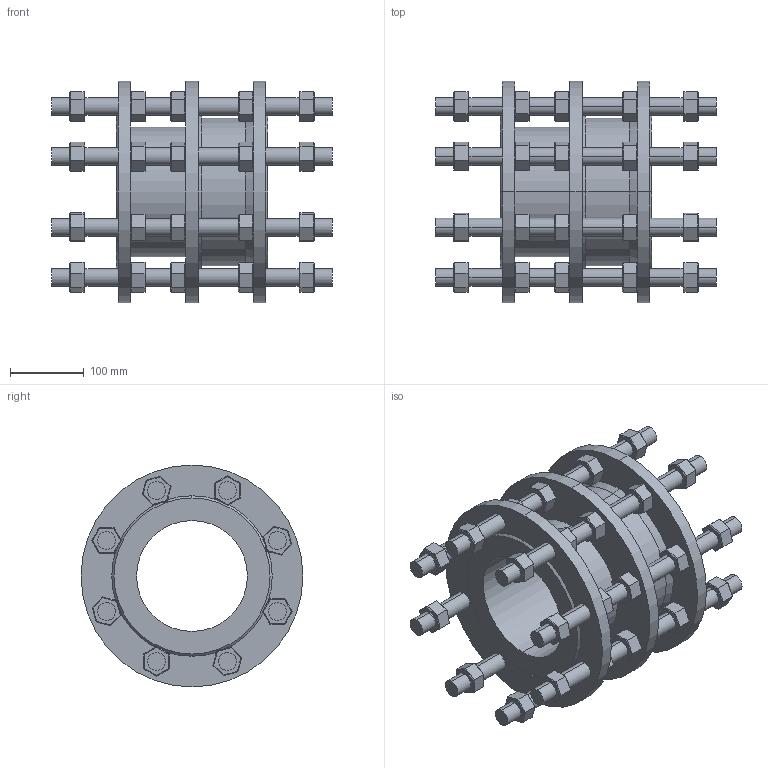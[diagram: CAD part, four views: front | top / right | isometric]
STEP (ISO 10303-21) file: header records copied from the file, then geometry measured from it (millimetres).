
FILE_DESCRIPTION (( 'STEP AP203' ), '1' );
FILE_NAME ('873015000741000.STEP', '2021-10-12T15:01:15', ( '' ), ( '' ), 'SwSTEP 2.0', 'SolidWorks 2020', '' );
FILE_SCHEMA (( 'CONFIG_CONTROL_DESIGN' ));
Length unit declared in the file: millimetre
Products named in the file (1): 873015000741000
Bounding box: 380 x 300 x 300 mm (x, y, z)
Volume: 6095374.7 mm3; surface area: 891925.4 mm2
Topology: 41 solids, 41 shells, 1149 faces, 2490 edges, 1446 vertices
Faces by surface type: plane 825, cone 166, cylinder 158
Entity records: 30439 total; most frequent: DIRECTION 5276, CARTESIAN_POINT 5086, ORIENTED_EDGE 4980, EDGE_CURVE 2490, VECTOR 2004, LINE 2004, AXIS2_PLACEMENT_3D 1636, VERTEX_POINT 1446
